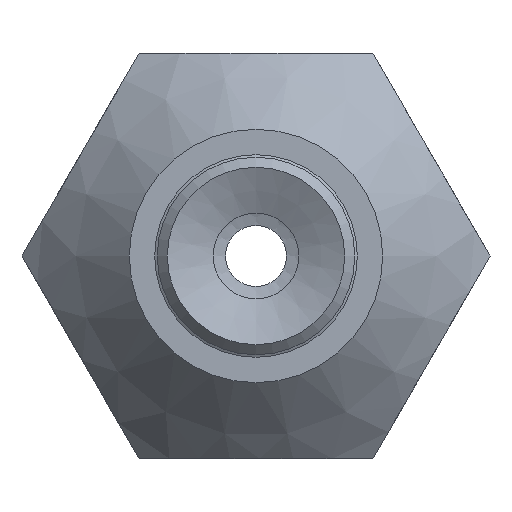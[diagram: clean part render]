
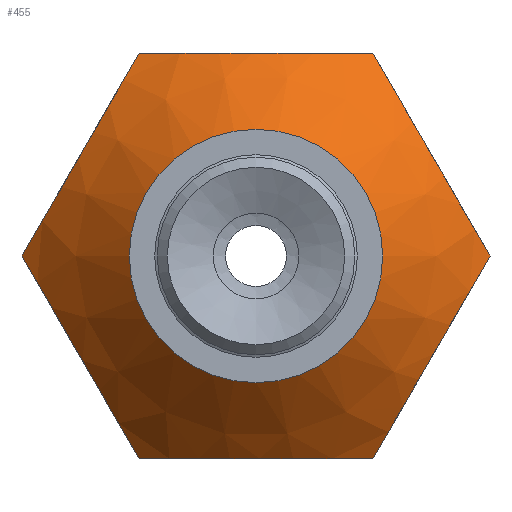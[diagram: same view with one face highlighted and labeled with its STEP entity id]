
A CAD part, front view. The second image highlights one B-rep face of the part: STEP entity #455.
In plain terms, the highlighted conical face has half-angle 45 degrees and reference radius 2.5 mm.
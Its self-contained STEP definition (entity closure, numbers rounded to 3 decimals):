
#455=ADVANCED_FACE('',(#562,#563),#564,.T.);
#562=FACE_BOUND('',#830,.T.);
#563=FACE_OUTER_BOUND('',#831,.T.);
#564=CONICAL_SURFACE('',#832,2.5,0.785);
#830=EDGE_LOOP('',(#1131));
#831=EDGE_LOOP('',(#1132,#1133,#1134,#1135,#1136,#1137));
#832=AXIS2_PLACEMENT_3D('',#1138,#1139,#1140);
#1131=ORIENTED_EDGE('',*,*,#1789,.F.);
#1132=ORIENTED_EDGE('',*,*,#1790,.F.);
#1133=ORIENTED_EDGE('',*,*,#1791,.F.);
#1134=ORIENTED_EDGE('',*,*,#1792,.F.);
#1135=ORIENTED_EDGE('',*,*,#1793,.F.);
#1136=ORIENTED_EDGE('',*,*,#1794,.F.);
#1137=ORIENTED_EDGE('',*,*,#1795,.F.);
#1138=CARTESIAN_POINT('',(0.0,0.,0.0));
#1139=DIRECTION('',(-0.0,1.0,-0.0));
#1140=DIRECTION('',(0.0,0.0,1.0));
#1789=EDGE_CURVE('',#1962,#1962,#1963,.T.);
#1790=EDGE_CURVE('',#1964,#1965,#1966,.T.);
#1791=EDGE_CURVE('',#1967,#1964,#1968,.T.);
#1792=EDGE_CURVE('',#1969,#1967,#1970,.T.);
#1793=EDGE_CURVE('',#1971,#1969,#1972,.T.);
#1794=EDGE_CURVE('',#1973,#1971,#1974,.T.);
#1795=EDGE_CURVE('',#1965,#1973,#1975,.T.);
#1962=VERTEX_POINT('',#2260);
#1963=CIRCLE('',#2261,2.5);
#1964=VERTEX_POINT('',#2262);
#1965=VERTEX_POINT('',#2263);
#1966=B_SPLINE_CURVE_WITH_KNOTS('',2,(#2264,#2265,#2266,#2267,#2268),.UNSPECIFIED.,.F.,.F.,(3,2,3),(0.0,0.5,1.0),.UNSPECIFIED.);
#1967=VERTEX_POINT('',#2269);
#1968=B_SPLINE_CURVE_WITH_KNOTS('',2,(#2270,#2271,#2272,#2273,#2274),.UNSPECIFIED.,.F.,.F.,(3,2,3),(0.0,0.5,1.0),.UNSPECIFIED.);
#1969=VERTEX_POINT('',#2275);
#1970=B_SPLINE_CURVE_WITH_KNOTS('',2,(#2276,#2277,#2278,#2279,#2280),.UNSPECIFIED.,.F.,.F.,(3,2,3),(0.0,0.5,1.0),.UNSPECIFIED.);
#1971=VERTEX_POINT('',#2281);
#1972=B_SPLINE_CURVE_WITH_KNOTS('',2,(#2282,#2283,#2284,#2285,#2286),.UNSPECIFIED.,.F.,.F.,(3,2,3),(0.0,0.5,1.0),.UNSPECIFIED.);
#1973=VERTEX_POINT('',#2287);
#1974=B_SPLINE_CURVE_WITH_KNOTS('',2,(#2288,#2289,#2290,#2291,#2292),.UNSPECIFIED.,.F.,.F.,(3,2,3),(0.0,0.5,1.0),.UNSPECIFIED.);
#1975=B_SPLINE_CURVE_WITH_KNOTS('',2,(#2293,#2294,#2295,#2296,#2297),.UNSPECIFIED.,.F.,.F.,(3,2,3),(0.0,0.5,1.0),.UNSPECIFIED.);
#2260=CARTESIAN_POINT('',(0.0,0.,-2.5));
#2261=AXIS2_PLACEMENT_3D('',#2876,#2877,#2878);
#2262=CARTESIAN_POINT('',(4.619,2.119,0.));
#2263=CARTESIAN_POINT('',(2.309,2.119,-4.0));
#2264=CARTESIAN_POINT('',(4.619,2.119,0.));
#2265=CARTESIAN_POINT('',(4.002,1.502,-1.068));
#2266=CARTESIAN_POINT('',(3.468,1.5,-1.993));
#2267=CARTESIAN_POINT('',(2.93,1.498,-2.924));
#2268=CARTESIAN_POINT('',(2.309,2.119,-4.));
#2269=CARTESIAN_POINT('',(2.309,2.119,4.0));
#2270=CARTESIAN_POINT('',(2.309,2.119,4.0));
#2271=CARTESIAN_POINT('',(2.926,1.502,2.932));
#2272=CARTESIAN_POINT('',(3.46,1.5,2.007));
#2273=CARTESIAN_POINT('',(3.998,1.498,1.076));
#2274=CARTESIAN_POINT('',(4.619,2.119,0.));
#2275=CARTESIAN_POINT('',(-2.309,2.119,4.0));
#2276=CARTESIAN_POINT('',(-2.309,2.119,4.0));
#2277=CARTESIAN_POINT('',(-1.073,1.5,4.0));
#2278=CARTESIAN_POINT('',(-0.001,1.5,4.0));
#2279=CARTESIAN_POINT('',(1.071,1.5,4.0));
#2280=CARTESIAN_POINT('',(2.309,2.119,4.0));
#2281=CARTESIAN_POINT('',(-4.619,2.119,0.));
#2282=CARTESIAN_POINT('',(-4.619,2.119,0.));
#2283=CARTESIAN_POINT('',(-4.002,1.502,1.068));
#2284=CARTESIAN_POINT('',(-3.468,1.5,1.993));
#2285=CARTESIAN_POINT('',(-2.93,1.498,2.924));
#2286=CARTESIAN_POINT('',(-2.309,2.119,4.));
#2287=CARTESIAN_POINT('',(-2.309,2.119,-4.0));
#2288=CARTESIAN_POINT('',(-2.309,2.119,-4.0));
#2289=CARTESIAN_POINT('',(-2.926,1.502,-2.932));
#2290=CARTESIAN_POINT('',(-3.46,1.5,-2.007));
#2291=CARTESIAN_POINT('',(-3.998,1.498,-1.076));
#2292=CARTESIAN_POINT('',(-4.619,2.119,0.));
#2293=CARTESIAN_POINT('',(2.309,2.119,-4.0));
#2294=CARTESIAN_POINT('',(1.073,1.5,-4.0));
#2295=CARTESIAN_POINT('',(0.001,1.5,-4.0));
#2296=CARTESIAN_POINT('',(-1.071,1.5,-4.0));
#2297=CARTESIAN_POINT('',(-2.309,2.119,-4.0));
#2876=CARTESIAN_POINT('',(0.0,0.,0.0));
#2877=DIRECTION('',(0.0,-1.0,0.0));
#2878=DIRECTION('',(0.0,0.0,-1.0));
